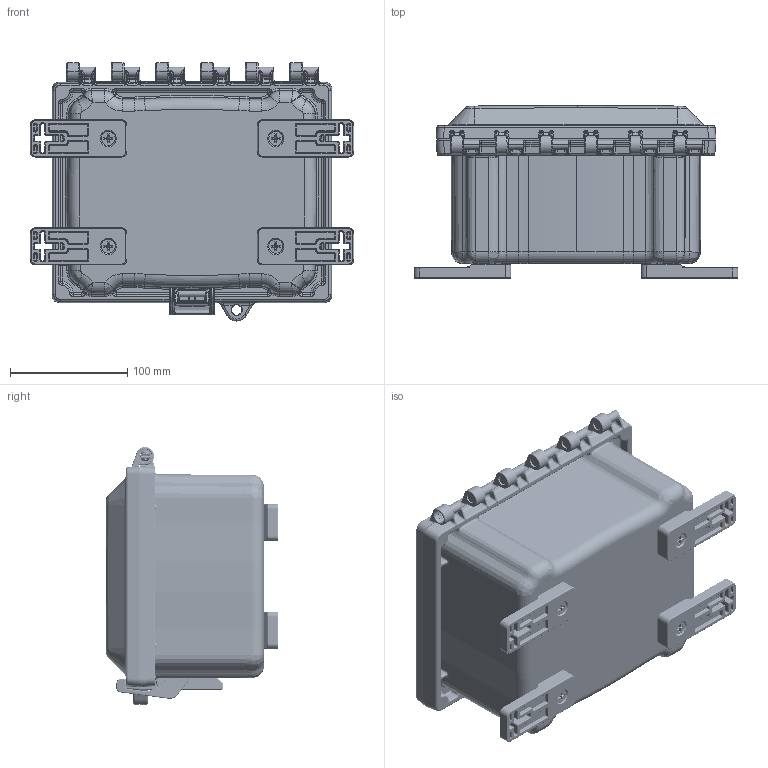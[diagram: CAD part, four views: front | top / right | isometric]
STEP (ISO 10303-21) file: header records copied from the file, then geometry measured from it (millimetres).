
FILE_DESCRIPTION((''),'2;1');
FILE_NAME('SCE-806PCW_ASM','2022-07-28T15:05:56',('mikek'),('SAGINAW CONTROL & ENGINEERING'),'CREO PARAMETRIC BY PTC INC, 2021284','CREO PARAMETRIC BY PTC INC, 2021284','');
FILE_SCHEMA(('AUTOMOTIVE_DESIGN { 1 0 10303 214 1 1 1 1 }'));
Length unit declared in the file: inch
Products named in the file (12): RMAHINS1-4-20UNC; RMAHINS10-32UNF; RMSC1-4-20X_5FLPH; RMAHFOOT-001; LATCH_TOP; LATCH_BOTTOM; RMAHLATCH-001_ASM; WPPC864BOX; WPPCC864CVR; RMGAS_WPPCC864CVR; WPPCC864U_ASM; SCE-806PCW_ASM
Assembly tree (27 placements, depth 3):
  SCE-806PCW_ASM
    RMAHINS1-4-20UNC  x4
    RMAHINS10-32UNF  x8
    RMSC1-4-20X_5FLPH  x4
    RMAHFOOT-001  x4
    RMAHLATCH-001_ASM
      LATCH_TOP
      LATCH_BOTTOM
    WPPC864BOX
    WPPCC864U_ASM
      WPPCC864CVR
      RMGAS_WPPCC864CVR
Bounding box: 276.23 x 147.27 x 220.38 mm (x, y, z)
Volume: 919243.6 mm3; surface area: 493265.8 mm2
Topology: 25 solids, 25 shells, 4642 faces, 11056 edges, 6494 vertices
Faces by surface type: cylinder 1653, bspline 1037, plane 972, torus 531, cone 397, sphere 52
Entity records: 167805 total; most frequent: CARTESIAN_POINT 70576, ORIENTED_EDGE 15796, DIRECTION 13442, EDGE_CURVE 7898, PRESENTATION_STYLE_ASSIGNMENT 6991, STYLED_ITEM 6640, CURVE_STYLE 5781, AXIS2_PLACEMENT_3D 5359
